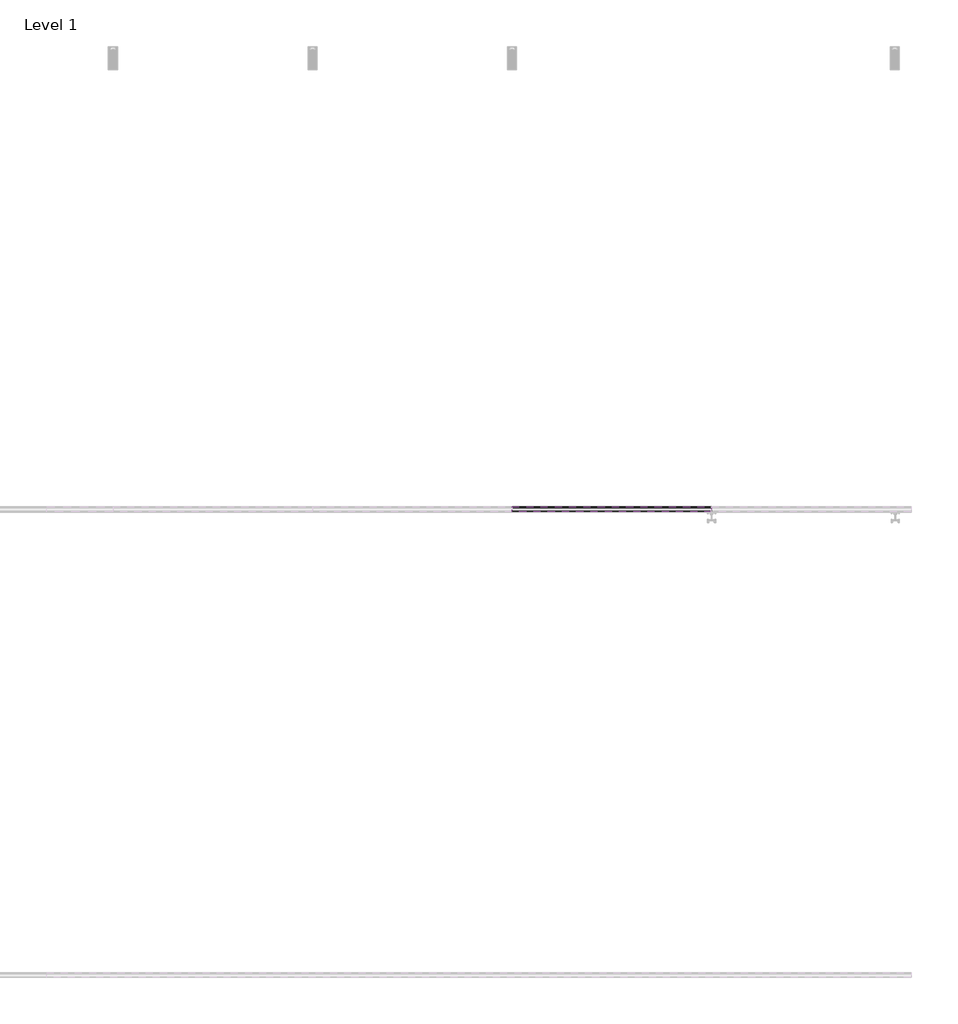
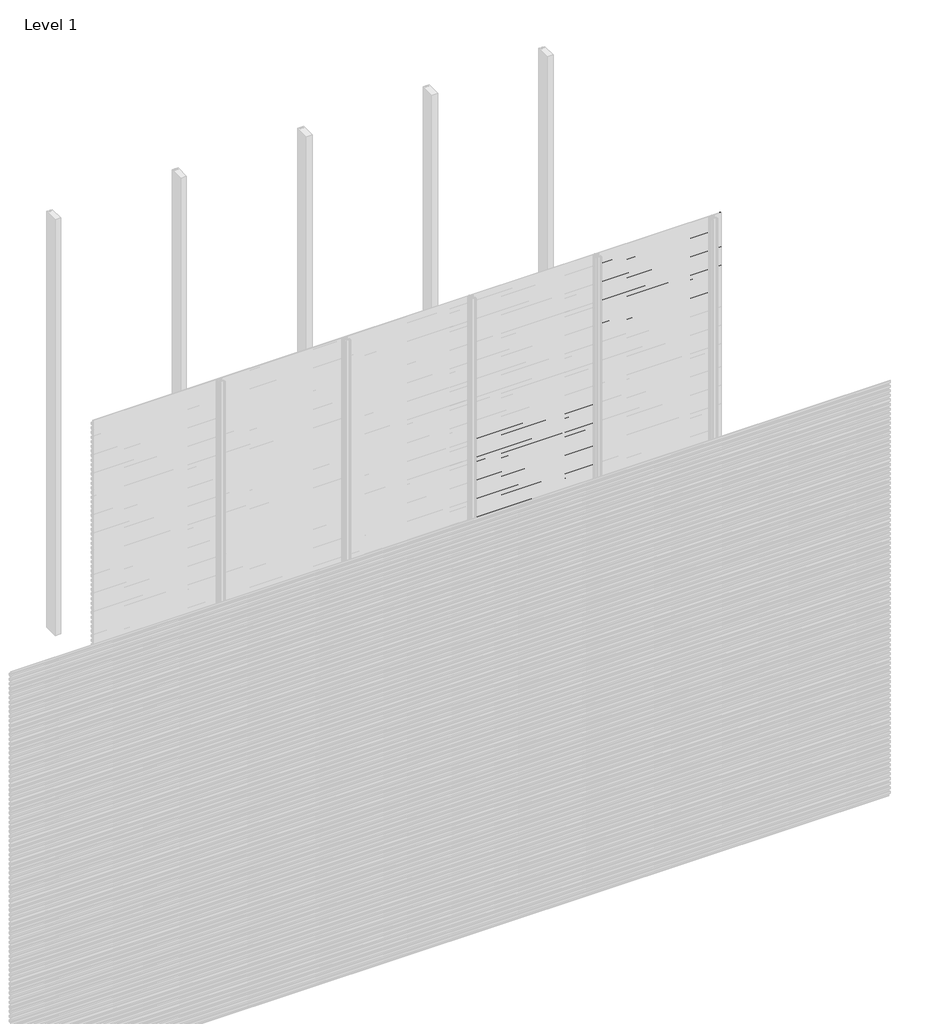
# One storey, part 30 of 96: 77 proxies.
"""IFC4 building model written with IfcOpenShell, lengths in millimetres."""

from ifc_helpers import new_model, si_unit, frame, origin, place, context, project, spatial, polyline, outline, extrude, element, save

model = new_model("IFC4")

# Units and contexts
model_context = context("Model", 3, world=origin())
ifc_project = project(units=[si_unit("LENGTHUNIT", "METRE", prefix="MILLI")], contexts=[model_context])

# Site, building, storey
site = spatial("IfcSite", under=ifc_project)
building = spatial("IfcBuilding", under=site)
storey = spatial("IfcBuildingStorey", under=building, Name="Level 1", Elevation=0.0)

# Proxies
placement = place(None, origin())
element("IfcBuildingElementProxy", 1, Name="Wall Sweeps", at=placement, inside=storey, context=model_context, shape_type="SweptSolid", body=[
    extrude(outline(polyline([(-41977.6, 1972.7655033), (-41977.6, 1958.4779188), (-41982.4114965, 1955.7), (-41982.4114965, 1956.9701706), (-41978.85, 1959.0264016), (-41978.85, 1972.0437382), (-41998.0, 1983.1000799), (-41998.0, 1998.0), (-41996.75, 1998.0), (-41996.75, 1983.8217609), (-41977.6, 1972.7655033)])), frame((4285.7142857, 0.0, 0.0), z_axis=(1.0, 0.0, 0.0), x_axis=(0.0, 1.0, 0.0)), (0.0, 0.0, 1.0), 857.1428571),
])
element("IfcBuildingElementProxy", 2, Name="Wall Sweeps", at=placement, inside=storey, context=model_context, shape_type="SweptSolid", body=[
    extrude(outline(polyline([(-41977.6, 1939.4655033), (-41977.6, 1925.1779188), (-41982.4114965, 1922.4), (-41982.4114965, 1923.6701706), (-41978.85, 1925.7264016), (-41978.85, 1938.7437382), (-41998.0, 1949.8000799), (-41998.0, 1964.7), (-41996.75, 1964.7), (-41996.75, 1950.5217609), (-41977.6, 1939.4655033)])), frame((4285.7142857, 0.0, 0.0), z_axis=(1.0, 0.0, 0.0), x_axis=(0.0, 1.0, 0.0)), (0.0, 0.0, 1.0), 857.1428571),
])
element("IfcBuildingElementProxy", 3, Name="Wall Sweeps", at=placement, inside=storey, context=model_context, shape_type="SweptSolid", body=[
    extrude(outline(polyline([(-41977.6, 1906.1655033), (-41977.6, 1891.8779188), (-41982.4114965, 1889.1), (-41982.4114965, 1890.3701706), (-41978.85, 1892.4264016), (-41978.85, 1905.4437382), (-41998.0, 1916.5000799), (-41998.0, 1931.4), (-41996.75, 1931.4), (-41996.75, 1917.2217609), (-41977.6, 1906.1655033)])), frame((4285.7142857, 0.0, 0.0), z_axis=(1.0, 0.0, 0.0), x_axis=(0.0, 1.0, 0.0)), (0.0, 0.0, 1.0), 857.1428571),
])
element("IfcBuildingElementProxy", 4, Name="Wall Sweeps", at=placement, inside=storey, context=model_context, shape_type="SweptSolid", body=[
    extrude(outline(polyline([(-41977.6, 1872.8655033), (-41977.6, 1858.5779188), (-41982.4114965, 1855.8), (-41982.4114965, 1857.0701706), (-41978.85, 1859.1264016), (-41978.85, 1872.1437382), (-41998.0, 1883.2000799), (-41998.0, 1898.1), (-41996.75, 1898.1), (-41996.75, 1883.9217609), (-41977.6, 1872.8655033)])), frame((4285.7142857, 0.0, 0.0), z_axis=(1.0, 0.0, 0.0), x_axis=(0.0, 1.0, 0.0)), (0.0, 0.0, 1.0), 857.1428571),
])
element("IfcBuildingElementProxy", 5, Name="Wall Sweeps", at=placement, inside=storey, context=model_context, shape_type="SweptSolid", body=[
    extrude(outline(polyline([(-41977.6, 1839.5655033), (-41977.6, 1825.2779188), (-41982.4114965, 1822.5), (-41982.4114965, 1823.7701706), (-41978.85, 1825.8264016), (-41978.85, 1838.8437382), (-41998.0, 1849.9000799), (-41998.0, 1864.8), (-41996.75, 1864.8), (-41996.75, 1850.6217609), (-41977.6, 1839.5655033)])), frame((4285.7142857, 0.0, 0.0), z_axis=(1.0, 0.0, 0.0), x_axis=(0.0, 1.0, 0.0)), (0.0, 0.0, 1.0), 857.1428571),
])
element("IfcBuildingElementProxy", 6, Name="Wall Sweeps", at=placement, inside=storey, context=model_context, shape_type="SweptSolid", body=[
    extrude(outline(polyline([(-41977.6, 1806.2655033), (-41977.6, 1791.9779188), (-41982.4114965, 1789.2), (-41982.4114965, 1790.4701706), (-41978.85, 1792.5264016), (-41978.85, 1805.5437382), (-41998.0, 1816.6000799), (-41998.0, 1831.5), (-41996.75, 1831.5), (-41996.75, 1817.3217609), (-41977.6, 1806.2655033)])), frame((4285.7142857, 0.0, 0.0), z_axis=(1.0, 0.0, 0.0), x_axis=(0.0, 1.0, 0.0)), (0.0, 0.0, 1.0), 857.1428571),
])
element("IfcBuildingElementProxy", 7, Name="Wall Sweeps", at=placement, inside=storey, context=model_context, shape_type="SweptSolid", body=[
    extrude(outline(polyline([(-41977.6, 1772.9655033), (-41977.6, 1758.6779188), (-41982.4114965, 1755.9), (-41982.4114965, 1757.1701706), (-41978.85, 1759.2264016), (-41978.85, 1772.2437382), (-41998.0, 1783.3000799), (-41998.0, 1798.2), (-41996.75, 1798.2), (-41996.75, 1784.0217609), (-41977.6, 1772.9655033)])), frame((4285.7142857, 0.0, 0.0), z_axis=(1.0, 0.0, 0.0), x_axis=(0.0, 1.0, 0.0)), (0.0, 0.0, 1.0), 857.1428571),
])
element("IfcBuildingElementProxy", 8, Name="Wall Sweeps", at=placement, inside=storey, context=model_context, shape_type="SweptSolid", body=[
    extrude(outline(polyline([(-41977.6, 1739.6655033), (-41977.6, 1725.3779188), (-41982.4114965, 1722.6), (-41982.4114965, 1723.8701706), (-41978.85, 1725.9264016), (-41978.85, 1738.9437382), (-41998.0, 1750.0000799), (-41998.0, 1764.9), (-41996.75, 1764.9), (-41996.75, 1750.7217609), (-41977.6, 1739.6655033)])), frame((4285.7142857, 0.0, 0.0), z_axis=(1.0, 0.0, 0.0), x_axis=(0.0, 1.0, 0.0)), (0.0, 0.0, 1.0), 857.1428571),
])
element("IfcBuildingElementProxy", 9, Name="Wall Sweeps", at=placement, inside=storey, context=model_context, shape_type="SweptSolid", body=[
    extrude(outline(polyline([(-41977.6, 1706.3655033), (-41977.6, 1692.0779188), (-41982.4114965, 1689.3), (-41982.4114965, 1690.5701706), (-41978.85, 1692.6264016), (-41978.85, 1705.6437382), (-41998.0, 1716.7000799), (-41998.0, 1731.6), (-41996.75, 1731.6), (-41996.75, 1717.4217609), (-41977.6, 1706.3655033)])), frame((4285.7142857, 0.0, 0.0), z_axis=(1.0, 0.0, 0.0), x_axis=(0.0, 1.0, 0.0)), (0.0, 0.0, 1.0), 857.1428571),
])
element("IfcBuildingElementProxy", 10, Name="Wall Sweeps", at=placement, inside=storey, context=model_context, shape_type="SweptSolid", body=[
    extrude(outline(polyline([(-41977.6, 1673.0655033), (-41977.6, 1658.7779188), (-41982.4114965, 1656.0), (-41982.4114965, 1657.2701706), (-41978.85, 1659.3264016), (-41978.85, 1672.3437382), (-41998.0, 1683.4000799), (-41998.0, 1698.3), (-41996.75, 1698.3), (-41996.75, 1684.1217609), (-41977.6, 1673.0655033)])), frame((4285.7142857, 0.0, 0.0), z_axis=(1.0, 0.0, 0.0), x_axis=(0.0, 1.0, 0.0)), (0.0, 0.0, 1.0), 857.1428571),
])
element("IfcBuildingElementProxy", 11, Name="Wall Sweeps", at=placement, inside=storey, context=model_context, shape_type="SweptSolid", body=[
    extrude(outline(polyline([(-41977.6, 1639.7655033), (-41977.6, 1625.4779188), (-41982.4114965, 1622.7), (-41982.4114965, 1623.9701706), (-41978.85, 1626.0264016), (-41978.85, 1639.0437382), (-41998.0, 1650.1000799), (-41998.0, 1665.0), (-41996.75, 1665.0), (-41996.75, 1650.8217609), (-41977.6, 1639.7655033)])), frame((4285.7142857, 0.0, 0.0), z_axis=(1.0, 0.0, 0.0), x_axis=(0.0, 1.0, 0.0)), (0.0, 0.0, 1.0), 857.1428571),
])
element("IfcBuildingElementProxy", 12, Name="Wall Sweeps", at=placement, inside=storey, context=model_context, shape_type="SweptSolid", body=[
    extrude(outline(polyline([(-41977.6, 1606.4655033), (-41977.6, 1592.1779188), (-41982.4114965, 1589.4), (-41982.4114965, 1590.6701706), (-41978.85, 1592.7264016), (-41978.85, 1605.7437382), (-41998.0, 1616.8000799), (-41998.0, 1631.7), (-41996.75, 1631.7), (-41996.75, 1617.5217609), (-41977.6, 1606.4655033)])), frame((4285.7142857, 0.0, 0.0), z_axis=(1.0, 0.0, 0.0), x_axis=(0.0, 1.0, 0.0)), (0.0, 0.0, 1.0), 857.1428571),
])
element("IfcBuildingElementProxy", 13, Name="Wall Sweeps", at=placement, inside=storey, context=model_context, shape_type="SweptSolid", body=[
    extrude(outline(polyline([(-41977.6, 1573.1655033), (-41977.6, 1558.8779188), (-41982.4114965, 1556.1), (-41982.4114965, 1557.3701706), (-41978.85, 1559.4264016), (-41978.85, 1572.4437382), (-41998.0, 1583.5000799), (-41998.0, 1598.4), (-41996.75, 1598.4), (-41996.75, 1584.2217609), (-41977.6, 1573.1655033)])), frame((4285.7142857, 0.0, 0.0), z_axis=(1.0, 0.0, 0.0), x_axis=(0.0, 1.0, 0.0)), (0.0, 0.0, 1.0), 857.1428571),
])
element("IfcBuildingElementProxy", 14, Name="Wall Sweeps", at=placement, inside=storey, context=model_context, shape_type="SweptSolid", body=[
    extrude(outline(polyline([(-41977.6, 1539.8655033), (-41977.6, 1525.5779188), (-41982.4114965, 1522.8), (-41982.4114965, 1524.0701706), (-41978.85, 1526.1264016), (-41978.85, 1539.1437382), (-41998.0, 1550.2000799), (-41998.0, 1565.1), (-41996.75, 1565.1), (-41996.75, 1550.9217609), (-41977.6, 1539.8655033)])), frame((4285.7142857, 0.0, 0.0), z_axis=(1.0, 0.0, 0.0), x_axis=(0.0, 1.0, 0.0)), (0.0, 0.0, 1.0), 857.1428571),
])
element("IfcBuildingElementProxy", 15, Name="Wall Sweeps", at=placement, inside=storey, context=model_context, shape_type="SweptSolid", body=[
    extrude(outline(polyline([(-41977.6, 1506.5655033), (-41977.6, 1492.2779188), (-41982.4114965, 1489.5), (-41982.4114965, 1490.7701706), (-41978.85, 1492.8264016), (-41978.85, 1505.8437382), (-41998.0, 1516.9000799), (-41998.0, 1531.8), (-41996.75, 1531.8), (-41996.75, 1517.6217609), (-41977.6, 1506.5655033)])), frame((4285.7142857, 0.0, 0.0), z_axis=(1.0, 0.0, 0.0), x_axis=(0.0, 1.0, 0.0)), (0.0, 0.0, 1.0), 857.1428571),
])
element("IfcBuildingElementProxy", 16, Name="Wall Sweeps", at=placement, inside=storey, context=model_context, shape_type="SweptSolid", body=[
    extrude(outline(polyline([(-41977.6, 1473.2655033), (-41977.6, 1458.9779188), (-41982.4114965, 1456.2), (-41982.4114965, 1457.4701706), (-41978.85, 1459.5264016), (-41978.85, 1472.5437382), (-41998.0, 1483.6000799), (-41998.0, 1498.5), (-41996.75, 1498.5), (-41996.75, 1484.3217609), (-41977.6, 1473.2655033)])), frame((4285.7142857, 0.0, 0.0), z_axis=(1.0, 0.0, 0.0), x_axis=(0.0, 1.0, 0.0)), (0.0, 0.0, 1.0), 857.1428571),
])
element("IfcBuildingElementProxy", 17, Name="Wall Sweeps", at=placement, inside=storey, context=model_context, shape_type="SweptSolid", body=[
    extrude(outline(polyline([(-41977.6, 1439.9655033), (-41977.6, 1425.6779188), (-41982.4114965, 1422.9), (-41982.4114965, 1424.1701706), (-41978.85, 1426.2264016), (-41978.85, 1439.2437382), (-41998.0, 1450.3000799), (-41998.0, 1465.2), (-41996.75, 1465.2), (-41996.75, 1451.0217609), (-41977.6, 1439.9655033)])), frame((4285.7142857, 0.0, 0.0), z_axis=(1.0, 0.0, 0.0), x_axis=(0.0, 1.0, 0.0)), (0.0, 0.0, 1.0), 857.1428571),
])
element("IfcBuildingElementProxy", 18, Name="Wall Sweeps", at=placement, inside=storey, context=model_context, shape_type="SweptSolid", body=[
    extrude(outline(polyline([(-41977.6, 1406.6655033), (-41977.6, 1392.3779188), (-41982.4114965, 1389.6), (-41982.4114965, 1390.8701706), (-41978.85, 1392.9264016), (-41978.85, 1405.9437382), (-41998.0, 1417.0000799), (-41998.0, 1431.9), (-41996.75, 1431.9), (-41996.75, 1417.7217609), (-41977.6, 1406.6655033)])), frame((4285.7142857, 0.0, 0.0), z_axis=(1.0, 0.0, 0.0), x_axis=(0.0, 1.0, 0.0)), (0.0, 0.0, 1.0), 857.1428571),
])
element("IfcBuildingElementProxy", 19, Name="Wall Sweeps", at=placement, inside=storey, context=model_context, shape_type="SweptSolid", body=[
    extrude(outline(polyline([(-41977.6, 1373.3655033), (-41977.6, 1359.0779188), (-41982.4114965, 1356.3), (-41982.4114965, 1357.5701706), (-41978.85, 1359.6264016), (-41978.85, 1372.6437382), (-41998.0, 1383.7000799), (-41998.0, 1398.6), (-41996.75, 1398.6), (-41996.75, 1384.4217609), (-41977.6, 1373.3655033)])), frame((4285.7142857, 0.0, 0.0), z_axis=(1.0, 0.0, 0.0), x_axis=(0.0, 1.0, 0.0)), (0.0, 0.0, 1.0), 857.1428571),
])
element("IfcBuildingElementProxy", 20, Name="Wall Sweeps", at=placement, inside=storey, context=model_context, shape_type="SweptSolid", body=[
    extrude(outline(polyline([(-41977.6, 1340.0655033), (-41977.6, 1325.7779188), (-41982.4114965, 1323.0), (-41982.4114965, 1324.2701706), (-41978.85, 1326.3264016), (-41978.85, 1339.3437382), (-41998.0, 1350.4000799), (-41998.0, 1365.3), (-41996.75, 1365.3), (-41996.75, 1351.1217609), (-41977.6, 1340.0655033)])), frame((4285.7142857, 0.0, 0.0), z_axis=(1.0, 0.0, 0.0), x_axis=(0.0, 1.0, 0.0)), (0.0, 0.0, 1.0), 857.1428571),
])
element("IfcBuildingElementProxy", 21, Name="Wall Sweeps", at=placement, inside=storey, context=model_context, shape_type="SweptSolid", body=[
    extrude(outline(polyline([(-41977.6, 1306.7655033), (-41977.6, 1292.4779188), (-41982.4114965, 1289.7), (-41982.4114965, 1290.9701706), (-41978.85, 1293.0264016), (-41978.85, 1306.0437382), (-41998.0, 1317.1000799), (-41998.0, 1332.0), (-41996.75, 1332.0), (-41996.75, 1317.8217609), (-41977.6, 1306.7655033)])), frame((4285.7142857, 0.0, 0.0), z_axis=(1.0, 0.0, 0.0), x_axis=(0.0, 1.0, 0.0)), (0.0, 0.0, 1.0), 857.1428571),
])
element("IfcBuildingElementProxy", 22, Name="Wall Sweeps", at=placement, inside=storey, context=model_context, shape_type="SweptSolid", body=[
    extrude(outline(polyline([(-41977.6, 1273.4655033), (-41977.6, 1259.1779188), (-41982.4114965, 1256.4), (-41982.4114965, 1257.6701706), (-41978.85, 1259.7264016), (-41978.85, 1272.7437382), (-41998.0, 1283.8000799), (-41998.0, 1298.7), (-41996.75, 1298.7), (-41996.75, 1284.5217609), (-41977.6, 1273.4655033)])), frame((4285.7142857, 0.0, 0.0), z_axis=(1.0, 0.0, 0.0), x_axis=(0.0, 1.0, 0.0)), (0.0, 0.0, 1.0), 857.1428571),
])
element("IfcBuildingElementProxy", 23, Name="Wall Sweeps", at=placement, inside=storey, context=model_context, shape_type="SweptSolid", body=[
    extrude(outline(polyline([(-41977.6, 1240.1655033), (-41977.6, 1225.8779188), (-41982.4114965, 1223.1), (-41982.4114965, 1224.3701706), (-41978.85, 1226.4264016), (-41978.85, 1239.4437382), (-41998.0, 1250.5000799), (-41998.0, 1265.4), (-41996.75, 1265.4), (-41996.75, 1251.2217609), (-41977.6, 1240.1655033)])), frame((4285.7142857, 0.0, 0.0), z_axis=(1.0, 0.0, 0.0), x_axis=(0.0, 1.0, 0.0)), (0.0, 0.0, 1.0), 857.1428571),
])
element("IfcBuildingElementProxy", 24, Name="Wall Sweeps", at=placement, inside=storey, context=model_context, shape_type="SweptSolid", body=[
    extrude(outline(polyline([(-41977.6, 1206.8655033), (-41977.6, 1192.5779188), (-41982.4114965, 1189.8), (-41982.4114965, 1191.0701706), (-41978.85, 1193.1264016), (-41978.85, 1206.1437382), (-41998.0, 1217.2000799), (-41998.0, 1232.1), (-41996.75, 1232.1), (-41996.75, 1217.9217609), (-41977.6, 1206.8655033)])), frame((4285.7142857, 0.0, 0.0), z_axis=(1.0, 0.0, 0.0), x_axis=(0.0, 1.0, 0.0)), (0.0, 0.0, 1.0), 857.1428571),
])
element("IfcBuildingElementProxy", 25, Name="Wall Sweeps", at=placement, inside=storey, context=model_context, shape_type="SweptSolid", body=[
    extrude(outline(polyline([(-41977.6, 1173.5655033), (-41977.6, 1159.2779188), (-41982.4114965, 1156.5), (-41982.4114965, 1157.7701706), (-41978.85, 1159.8264016), (-41978.85, 1172.8437382), (-41998.0, 1183.9000799), (-41998.0, 1198.8), (-41996.75, 1198.8), (-41996.75, 1184.6217609), (-41977.6, 1173.5655033)])), frame((4285.7142857, 0.0, 0.0), z_axis=(1.0, 0.0, 0.0), x_axis=(0.0, 1.0, 0.0)), (0.0, 0.0, 1.0), 857.1428571),
])
element("IfcBuildingElementProxy", 26, Name="Wall Sweeps", at=placement, inside=storey, context=model_context, shape_type="SweptSolid", body=[
    extrude(outline(polyline([(-41977.6, 1140.2655033), (-41977.6, 1125.9779188), (-41982.4114965, 1123.2), (-41982.4114965, 1124.4701706), (-41978.85, 1126.5264016), (-41978.85, 1139.5437382), (-41998.0, 1150.6000799), (-41998.0, 1165.5), (-41996.75, 1165.5), (-41996.75, 1151.3217609), (-41977.6, 1140.2655033)])), frame((4285.7142857, 0.0, 0.0), z_axis=(1.0, 0.0, 0.0), x_axis=(0.0, 1.0, 0.0)), (0.0, 0.0, 1.0), 857.1428571),
])
element("IfcBuildingElementProxy", 27, Name="Wall Sweeps", at=placement, inside=storey, context=model_context, shape_type="SweptSolid", body=[
    extrude(outline(polyline([(-41977.6, 1106.9655033), (-41977.6, 1092.6779188), (-41982.4114965, 1089.9), (-41982.4114965, 1091.1701706), (-41978.85, 1093.2264016), (-41978.85, 1106.2437382), (-41998.0, 1117.3000799), (-41998.0, 1132.2), (-41996.75, 1132.2), (-41996.75, 1118.0217609), (-41977.6, 1106.9655033)])), frame((4285.7142857, 0.0, 0.0), z_axis=(1.0, 0.0, 0.0), x_axis=(0.0, 1.0, 0.0)), (0.0, 0.0, 1.0), 857.1428571),
])
element("IfcBuildingElementProxy", 28, Name="Wall Sweeps", at=placement, inside=storey, context=model_context, shape_type="SweptSolid", body=[
    extrude(outline(polyline([(-41977.6, 1073.6655033), (-41977.6, 1059.3779188), (-41982.4114965, 1056.6), (-41982.4114965, 1057.8701706), (-41978.85, 1059.9264016), (-41978.85, 1072.9437382), (-41998.0, 1084.0000799), (-41998.0, 1098.9), (-41996.75, 1098.9), (-41996.75, 1084.7217609), (-41977.6, 1073.6655033)])), frame((4285.7142857, 0.0, 0.0), z_axis=(1.0, 0.0, 0.0), x_axis=(0.0, 1.0, 0.0)), (0.0, 0.0, 1.0), 857.1428571),
])
element("IfcBuildingElementProxy", 29, Name="Wall Sweeps", at=placement, inside=storey, context=model_context, shape_type="SweptSolid", body=[
    extrude(outline(polyline([(-41977.6, 1040.3655033), (-41977.6, 1026.0779188), (-41982.4114965, 1023.3), (-41982.4114965, 1024.5701706), (-41978.85, 1026.6264016), (-41978.85, 1039.6437382), (-41998.0, 1050.7000799), (-41998.0, 1065.6), (-41996.75, 1065.6), (-41996.75, 1051.4217609), (-41977.6, 1040.3655033)])), frame((4285.7142857, 0.0, 0.0), z_axis=(1.0, 0.0, 0.0), x_axis=(0.0, 1.0, 0.0)), (0.0, 0.0, 1.0), 857.1428571),
])
element("IfcBuildingElementProxy", 30, Name="Wall Sweeps", at=placement, inside=storey, context=model_context, shape_type="SweptSolid", body=[
    extrude(outline(polyline([(-41977.6, 1007.0655033), (-41977.6, 992.7779188), (-41982.4114965, 990.0), (-41982.4114965, 991.2701706), (-41978.85, 993.3264016), (-41978.85, 1006.3437382), (-41998.0, 1017.4000799), (-41998.0, 1032.3), (-41996.75, 1032.3), (-41996.75, 1018.1217609), (-41977.6, 1007.0655033)])), frame((4285.7142857, 0.0, 0.0), z_axis=(1.0, 0.0, 0.0), x_axis=(0.0, 1.0, 0.0)), (0.0, 0.0, 1.0), 857.1428571),
])
element("IfcBuildingElementProxy", 31, Name="Wall Sweeps", at=placement, inside=storey, context=model_context, shape_type="SweptSolid", body=[
    extrude(outline(polyline([(-41977.6, 973.7655033), (-41977.6, 959.4779188), (-41982.4114965, 956.7), (-41982.4114965, 957.9701706), (-41978.85, 960.0264016), (-41978.85, 973.0437382), (-41998.0, 984.1000799), (-41998.0, 999.0), (-41996.75, 999.0), (-41996.75, 984.8217609), (-41977.6, 973.7655033)])), frame((4285.7142857, 0.0, 0.0), z_axis=(1.0, 0.0, 0.0), x_axis=(0.0, 1.0, 0.0)), (0.0, 0.0, 1.0), 857.1428571),
])
element("IfcBuildingElementProxy", 32, Name="Wall Sweeps", at=placement, inside=storey, context=model_context, shape_type="SweptSolid", body=[
    extrude(outline(polyline([(-41977.6, 940.4655033), (-41977.6, 926.1779188), (-41982.4114965, 923.4), (-41982.4114965, 924.6701706), (-41978.85, 926.7264016), (-41978.85, 939.7437382), (-41998.0, 950.8000799), (-41998.0, 965.7), (-41996.75, 965.7), (-41996.75, 951.5217609), (-41977.6, 940.4655033)])), frame((4285.7142857, 0.0, 0.0), z_axis=(1.0, 0.0, 0.0), x_axis=(0.0, 1.0, 0.0)), (0.0, 0.0, 1.0), 857.1428571),
])
element("IfcBuildingElementProxy", 33, Name="Wall Sweeps", at=placement, inside=storey, context=model_context, shape_type="SweptSolid", body=[
    extrude(outline(polyline([(-41977.6, 907.1655033), (-41977.6, 892.8779188), (-41982.4114965, 890.1), (-41982.4114965, 891.3701706), (-41978.85, 893.4264016), (-41978.85, 906.4437382), (-41998.0, 917.5000799), (-41998.0, 932.4), (-41996.75, 932.4), (-41996.75, 918.2217609), (-41977.6, 907.1655033)])), frame((4285.7142857, 0.0, 0.0), z_axis=(1.0, 0.0, 0.0), x_axis=(0.0, 1.0, 0.0)), (0.0, 0.0, 1.0), 857.1428571),
])
element("IfcBuildingElementProxy", 34, Name="Wall Sweeps", at=placement, inside=storey, context=model_context, shape_type="SweptSolid", body=[
    extrude(outline(polyline([(-41977.6, 873.8655033), (-41977.6, 859.5779188), (-41982.4114965, 856.8), (-41982.4114965, 858.0701706), (-41978.85, 860.1264016), (-41978.85, 873.1437382), (-41998.0, 884.2000799), (-41998.0, 899.1), (-41996.75, 899.1), (-41996.75, 884.9217609), (-41977.6, 873.8655033)])), frame((4285.7142857, 0.0, 0.0), z_axis=(1.0, 0.0, 0.0), x_axis=(0.0, 1.0, 0.0)), (0.0, 0.0, 1.0), 857.1428571),
])
element("IfcBuildingElementProxy", 35, Name="Wall Sweeps", at=placement, inside=storey, context=model_context, shape_type="SweptSolid", body=[
    extrude(outline(polyline([(-41977.6, 840.5655033), (-41977.6, 826.2779188), (-41982.4114965, 823.5), (-41982.4114965, 824.7701706), (-41978.85, 826.8264016), (-41978.85, 839.8437382), (-41998.0, 850.9000799), (-41998.0, 865.8), (-41996.75, 865.8), (-41996.75, 851.6217609), (-41977.6, 840.5655033)])), frame((4285.7142857, 0.0, 0.0), z_axis=(1.0, 0.0, 0.0), x_axis=(0.0, 1.0, 0.0)), (0.0, 0.0, 1.0), 857.1428571),
])
element("IfcBuildingElementProxy", 36, Name="Wall Sweeps", at=placement, inside=storey, context=model_context, shape_type="SweptSolid", body=[
    extrude(outline(polyline([(-41977.6, 807.2655033), (-41977.6, 792.9779188), (-41982.4114965, 790.2), (-41982.4114965, 791.4701706), (-41978.85, 793.5264016), (-41978.85, 806.5437382), (-41998.0, 817.6000799), (-41998.0, 832.5), (-41996.75, 832.5), (-41996.75, 818.3217609), (-41977.6, 807.2655033)])), frame((4285.7142857, 0.0, 0.0), z_axis=(1.0, 0.0, 0.0), x_axis=(0.0, 1.0, 0.0)), (0.0, 0.0, 1.0), 857.1428571),
])
element("IfcBuildingElementProxy", 37, Name="Wall Sweeps", at=placement, inside=storey, context=model_context, shape_type="SweptSolid", body=[
    extrude(outline(polyline([(-41977.6, 773.9655033), (-41977.6, 759.6779188), (-41982.4114965, 756.9), (-41982.4114965, 758.1701706), (-41978.85, 760.2264016), (-41978.85, 773.2437382), (-41998.0, 784.3000799), (-41998.0, 799.2), (-41996.75, 799.2), (-41996.75, 785.0217609), (-41977.6, 773.9655033)])), frame((4285.7142857, 0.0, 0.0), z_axis=(1.0, 0.0, 0.0), x_axis=(0.0, 1.0, 0.0)), (0.0, 0.0, 1.0), 857.1428571),
])
element("IfcBuildingElementProxy", 38, Name="Wall Sweeps", at=placement, inside=storey, context=model_context, shape_type="SweptSolid", body=[
    extrude(outline(polyline([(-41977.6, 740.6655033), (-41977.6, 726.3779188), (-41982.4114965, 723.6), (-41982.4114965, 724.8701706), (-41978.85, 726.9264016), (-41978.85, 739.9437382), (-41998.0, 751.0000799), (-41998.0, 765.9), (-41996.75, 765.9), (-41996.75, 751.7217609), (-41977.6, 740.6655033)])), frame((4285.7142857, 0.0, 0.0), z_axis=(1.0, 0.0, 0.0), x_axis=(0.0, 1.0, 0.0)), (0.0, 0.0, 1.0), 857.1428571),
])
element("IfcBuildingElementProxy", 39, Name="Wall Sweeps", at=placement, inside=storey, context=model_context, shape_type="SweptSolid", body=[
    extrude(outline(polyline([(-41977.6, 707.3655033), (-41977.6, 693.0779188), (-41982.4114965, 690.3), (-41982.4114965, 691.5701706), (-41978.85, 693.6264016), (-41978.85, 706.6437382), (-41998.0, 717.7000799), (-41998.0, 732.6), (-41996.75, 732.6), (-41996.75, 718.4217609), (-41977.6, 707.3655033)])), frame((4285.7142857, 0.0, 0.0), z_axis=(1.0, 0.0, 0.0), x_axis=(0.0, 1.0, 0.0)), (0.0, 0.0, 1.0), 857.1428571),
])
element("IfcBuildingElementProxy", 40, Name="Wall Sweeps", at=placement, inside=storey, context=model_context, shape_type="SweptSolid", body=[
    extrude(outline(polyline([(-41977.6, 674.0655033), (-41977.6, 659.7779188), (-41982.4114965, 657.0), (-41982.4114965, 658.2701706), (-41978.85, 660.3264016), (-41978.85, 673.3437382), (-41998.0, 684.4000799), (-41998.0, 699.3), (-41996.75, 699.3), (-41996.75, 685.1217609), (-41977.6, 674.0655033)])), frame((4285.7142857, 0.0, 0.0), z_axis=(1.0, 0.0, 0.0), x_axis=(0.0, 1.0, 0.0)), (0.0, 0.0, 1.0), 857.1428571),
])
element("IfcBuildingElementProxy", 41, Name="Wall Sweeps", at=placement, inside=storey, context=model_context, shape_type="SweptSolid", body=[
    extrude(outline(polyline([(-41977.6, 640.7655033), (-41977.6, 626.4779188), (-41982.4114965, 623.7), (-41982.4114965, 624.9701706), (-41978.85, 627.0264016), (-41978.85, 640.0437382), (-41998.0, 651.1000799), (-41998.0, 666.0), (-41996.75, 666.0), (-41996.75, 651.8217609), (-41977.6, 640.7655033)])), frame((4285.7142857, 0.0, 0.0), z_axis=(1.0, 0.0, 0.0), x_axis=(0.0, 1.0, 0.0)), (0.0, 0.0, 1.0), 857.1428571),
])
element("IfcBuildingElementProxy", 42, Name="Wall Sweeps", at=placement, inside=storey, context=model_context, shape_type="SweptSolid", body=[
    extrude(outline(polyline([(-41977.6, 607.4655033), (-41977.6, 593.1779188), (-41982.4114965, 590.4), (-41982.4114965, 591.6701706), (-41978.85, 593.7264016), (-41978.85, 606.7437382), (-41998.0, 617.8000799), (-41998.0, 632.7), (-41996.75, 632.7), (-41996.75, 618.5217609), (-41977.6, 607.4655033)])), frame((4285.7142857, 0.0, 0.0), z_axis=(1.0, 0.0, 0.0), x_axis=(0.0, 1.0, 0.0)), (0.0, 0.0, 1.0), 857.1428571),
])
element("IfcBuildingElementProxy", 43, Name="Wall Sweeps", at=placement, inside=storey, context=model_context, shape_type="SweptSolid", body=[
    extrude(outline(polyline([(-41977.6, 574.1655033), (-41977.6, 559.8779188), (-41982.4114965, 557.1), (-41982.4114965, 558.3701706), (-41978.85, 560.4264016), (-41978.85, 573.4437382), (-41998.0, 584.5000799), (-41998.0, 599.4), (-41996.75, 599.4), (-41996.75, 585.2217609), (-41977.6, 574.1655033)])), frame((4285.7142857, 0.0, 0.0), z_axis=(1.0, 0.0, 0.0), x_axis=(0.0, 1.0, 0.0)), (0.0, 0.0, 1.0), 857.1428571),
])
element("IfcBuildingElementProxy", 44, Name="Wall Sweeps", at=placement, inside=storey, context=model_context, shape_type="SweptSolid", body=[
    extrude(outline(polyline([(-41977.6, 540.8655033), (-41977.6, 526.5779188), (-41982.4114965, 523.8), (-41982.4114965, 525.0701706), (-41978.85, 527.1264016), (-41978.85, 540.1437382), (-41998.0, 551.2000799), (-41998.0, 566.1), (-41996.75, 566.1), (-41996.75, 551.9217609), (-41977.6, 540.8655033)])), frame((4285.7142857, 0.0, 0.0), z_axis=(1.0, 0.0, 0.0), x_axis=(0.0, 1.0, 0.0)), (0.0, 0.0, 1.0), 857.1428571),
])
element("IfcBuildingElementProxy", 45, Name="Wall Sweeps", at=placement, inside=storey, context=model_context, shape_type="SweptSolid", body=[
    extrude(outline(polyline([(-41977.6, 507.5655033), (-41977.6, 493.2779188), (-41982.4114965, 490.5), (-41982.4114965, 491.7701706), (-41978.85, 493.8264016), (-41978.85, 506.8437382), (-41998.0, 517.9000799), (-41998.0, 532.8), (-41996.75, 532.8), (-41996.75, 518.6217609), (-41977.6, 507.5655033)])), frame((4285.7142857, 0.0, 0.0), z_axis=(1.0, 0.0, 0.0), x_axis=(0.0, 1.0, 0.0)), (0.0, 0.0, 1.0), 857.1428571),
])
element("IfcBuildingElementProxy", 46, Name="Wall Sweeps", at=placement, inside=storey, context=model_context, shape_type="SweptSolid", body=[
    extrude(outline(polyline([(-41977.6, 474.2655033), (-41977.6, 459.9779188), (-41982.4114965, 457.2), (-41982.4114965, 458.4701706), (-41978.85, 460.5264016), (-41978.85, 473.5437382), (-41998.0, 484.6000799), (-41998.0, 499.5), (-41996.75, 499.5), (-41996.75, 485.3217609), (-41977.6, 474.2655033)])), frame((4285.7142857, 0.0, 0.0), z_axis=(1.0, 0.0, 0.0), x_axis=(0.0, 1.0, 0.0)), (0.0, 0.0, 1.0), 857.1428571),
])
element("IfcBuildingElementProxy", 47, Name="Wall Sweeps", at=placement, inside=storey, context=model_context, shape_type="SweptSolid", body=[
    extrude(outline(polyline([(-41977.6, 440.9655033), (-41977.6, 426.6779188), (-41982.4114965, 423.9), (-41982.4114965, 425.1701706), (-41978.85, 427.2264016), (-41978.85, 440.2437382), (-41998.0, 451.3000799), (-41998.0, 466.2), (-41996.75, 466.2), (-41996.75, 452.0217609), (-41977.6, 440.9655033)])), frame((4285.7142857, 0.0, 0.0), z_axis=(1.0, 0.0, 0.0), x_axis=(0.0, 1.0, 0.0)), (0.0, 0.0, 1.0), 857.1428571),
])
element("IfcBuildingElementProxy", 48, Name="Wall Sweeps", at=placement, inside=storey, context=model_context, shape_type="SweptSolid", body=[
    extrude(outline(polyline([(-41977.6, 407.6655033), (-41977.6, 393.3779188), (-41982.4114965, 390.6), (-41982.4114965, 391.8701706), (-41978.85, 393.9264016), (-41978.85, 406.9437382), (-41998.0, 418.0000799), (-41998.0, 432.9), (-41996.75, 432.9), (-41996.75, 418.7217609), (-41977.6, 407.6655033)])), frame((4285.7142857, 0.0, 0.0), z_axis=(1.0, 0.0, 0.0), x_axis=(0.0, 1.0, 0.0)), (0.0, 0.0, 1.0), 857.1428571),
])
element("IfcBuildingElementProxy", 49, Name="Wall Sweeps", at=placement, inside=storey, context=model_context, shape_type="SweptSolid", body=[
    extrude(outline(polyline([(-41977.6, 374.3655033), (-41977.6, 360.0779188), (-41982.4114965, 357.3), (-41982.4114965, 358.5701706), (-41978.85, 360.6264016), (-41978.85, 373.6437382), (-41998.0, 384.7000799), (-41998.0, 399.6), (-41996.75, 399.6), (-41996.75, 385.4217609), (-41977.6, 374.3655033)])), frame((4285.7142857, 0.0, 0.0), z_axis=(1.0, 0.0, 0.0), x_axis=(0.0, 1.0, 0.0)), (0.0, 0.0, 1.0), 857.1428571),
])
element("IfcBuildingElementProxy", 50, Name="Wall Sweeps", at=placement, inside=storey, context=model_context, shape_type="SweptSolid", body=[
    extrude(outline(polyline([(-41977.6, 341.0655033), (-41977.6, 326.7779188), (-41982.4114965, 324.0), (-41982.4114965, 325.2701706), (-41978.85, 327.3264016), (-41978.85, 340.3437382), (-41998.0, 351.4000799), (-41998.0, 366.3), (-41996.75, 366.3), (-41996.75, 352.1217609), (-41977.6, 341.0655033)])), frame((4285.7142857, 0.0, 0.0), z_axis=(1.0, 0.0, 0.0), x_axis=(0.0, 1.0, 0.0)), (0.0, 0.0, 1.0), 857.1428571),
])
element("IfcBuildingElementProxy", 51, Name="Wall Sweeps", at=placement, inside=storey, context=model_context, shape_type="SweptSolid", body=[
    extrude(outline(polyline([(-41977.6, 307.7655033), (-41977.6, 293.4779188), (-41982.4114965, 290.7), (-41982.4114965, 291.9701706), (-41978.85, 294.0264016), (-41978.85, 307.0437382), (-41998.0, 318.1000799), (-41998.0, 333.0), (-41996.75, 333.0), (-41996.75, 318.8217609), (-41977.6, 307.7655033)])), frame((4285.7142857, 0.0, 0.0), z_axis=(1.0, 0.0, 0.0), x_axis=(0.0, 1.0, 0.0)), (0.0, 0.0, 1.0), 857.1428571),
])
element("IfcBuildingElementProxy", 52, Name="Wall Sweeps", at=placement, inside=storey, context=model_context, shape_type="SweptSolid", body=[
    extrude(outline(polyline([(-41977.6, 274.4655033), (-41977.6, 260.1779188), (-41982.4114965, 257.4), (-41982.4114965, 258.6701706), (-41978.85, 260.7264016), (-41978.85, 273.7437382), (-41998.0, 284.8000799), (-41998.0, 299.7), (-41996.75, 299.7), (-41996.75, 285.5217609), (-41977.6, 274.4655033)])), frame((4285.7142857, 0.0, 0.0), z_axis=(1.0, 0.0, 0.0), x_axis=(0.0, 1.0, 0.0)), (0.0, 0.0, 1.0), 857.1428571),
])
element("IfcBuildingElementProxy", 53, Name="Wall Sweeps", at=placement, inside=storey, context=model_context, shape_type="SweptSolid", body=[
    extrude(outline(polyline([(-41977.6, 241.1655033), (-41977.6, 226.8779188), (-41982.4114965, 224.1), (-41982.4114965, 225.3701706), (-41978.85, 227.4264016), (-41978.85, 240.4437382), (-41998.0, 251.5000799), (-41998.0, 266.4), (-41996.75, 266.4), (-41996.75, 252.2217609), (-41977.6, 241.1655033)])), frame((4285.7142857, 0.0, 0.0), z_axis=(1.0, 0.0, 0.0), x_axis=(0.0, 1.0, 0.0)), (0.0, 0.0, 1.0), 857.1428571),
])
element("IfcBuildingElementProxy", 54, Name="Wall Sweeps", at=placement, inside=storey, context=model_context, shape_type="SweptSolid", body=[
    extrude(outline(polyline([(-41977.6, 207.8655033), (-41977.6, 193.5779188), (-41982.4114965, 190.8), (-41982.4114965, 192.0701706), (-41978.85, 194.1264016), (-41978.85, 207.1437382), (-41998.0, 218.2000799), (-41998.0, 233.1), (-41996.75, 233.1), (-41996.75, 218.9217609), (-41977.6, 207.8655033)])), frame((4285.7142857, 0.0, 0.0), z_axis=(1.0, 0.0, 0.0), x_axis=(0.0, 1.0, 0.0)), (0.0, 0.0, 1.0), 857.1428571),
])
element("IfcBuildingElementProxy", 55, Name="Wall Sweeps", at=placement, inside=storey, context=model_context, shape_type="SweptSolid", body=[
    extrude(outline(polyline([(-41977.6, 174.5655033), (-41977.6, 160.2779188), (-41982.4114965, 157.5), (-41982.4114965, 158.7701706), (-41978.85, 160.8264016), (-41978.85, 173.8437382), (-41998.0, 184.9000799), (-41998.0, 199.8), (-41996.75, 199.8), (-41996.75, 185.6217609), (-41977.6, 174.5655033)])), frame((4285.7142857, 0.0, 0.0), z_axis=(1.0, 0.0, 0.0), x_axis=(0.0, 1.0, 0.0)), (0.0, 0.0, 1.0), 857.1428571),
])
element("IfcBuildingElementProxy", 56, Name="Wall Sweeps", at=placement, inside=storey, context=model_context, shape_type="SweptSolid", body=[
    extrude(outline(polyline([(-41977.6, 141.2655033), (-41977.6, 126.9779188), (-41982.4114965, 124.2), (-41982.4114965, 125.4701706), (-41978.85, 127.5264016), (-41978.85, 140.5437382), (-41998.0, 151.6000799), (-41998.0, 166.5), (-41996.75, 166.5), (-41996.75, 152.3217609), (-41977.6, 141.2655033)])), frame((4285.7142857, 0.0, 0.0), z_axis=(1.0, 0.0, 0.0), x_axis=(0.0, 1.0, 0.0)), (0.0, 0.0, 1.0), 857.1428571),
])
element("IfcBuildingElementProxy", 57, Name="Wall Sweeps", at=placement, inside=storey, context=model_context, shape_type="SweptSolid", body=[
    extrude(outline(polyline([(-41977.6, 107.9655033), (-41977.6, 93.6779188), (-41982.4114965, 90.9), (-41982.4114965, 92.1701706), (-41978.85, 94.2264016), (-41978.85, 107.2437382), (-41998.0, 118.3000799), (-41998.0, 133.2), (-41996.75, 133.2), (-41996.75, 119.0217609), (-41977.6, 107.9655033)])), frame((4285.7142857, 0.0, 0.0), z_axis=(1.0, 0.0, 0.0), x_axis=(0.0, 1.0, 0.0)), (0.0, 0.0, 1.0), 857.1428571),
])
element("IfcBuildingElementProxy", 58, Name="Wall Sweeps", at=placement, inside=storey, context=model_context, shape_type="SweptSolid", body=[
    extrude(outline(polyline([(-41977.6, 74.6655033), (-41977.6, 60.3779188), (-41982.4114965, 57.6), (-41982.4114965, 58.8701706), (-41978.85, 60.9264016), (-41978.85, 73.9437382), (-41998.0, 85.0000799), (-41998.0, 99.9), (-41996.75, 99.9), (-41996.75, 85.7217609), (-41977.6, 74.6655033)])), frame((4285.7142857, 0.0, 0.0), z_axis=(1.0, 0.0, 0.0), x_axis=(0.0, 1.0, 0.0)), (0.0, 0.0, 1.0), 857.1428571),
])
element("IfcBuildingElementProxy", 59, Name="Wall Sweeps", at=placement, inside=storey, context=model_context, shape_type="SweptSolid", body=[
    extrude(outline(polyline([(-41977.6, 41.3655033), (-41977.6, 27.0779188), (-41982.4114965, 24.3), (-41982.4114965, 25.5701706), (-41978.85, 27.6264016), (-41978.85, 40.6437382), (-41998.0, 51.7000799), (-41998.0, 66.6), (-41996.75, 66.6), (-41996.75, 52.4217609), (-41977.6, 41.3655033)])), frame((4285.7142857, 0.0, 0.0), z_axis=(1.0, 0.0, 0.0), x_axis=(0.0, 1.0, 0.0)), (0.0, 0.0, 1.0), 857.1428571),
])
element("IfcBuildingElementProxy", 60, Name="Wall Sweeps", at=placement, inside=storey, context=model_context, shape_type="SweptSolid", body=[
    extrude(outline(polyline([(-41977.6, 8.0655033), (-41977.6, -6.2220812), (-41982.4114965, -9.0), (-41982.4114965, -7.7298294), (-41978.85, -5.6735984), (-41978.85, 7.3437382), (-41998.0, 18.4000799), (-41998.0, 33.3), (-41996.75, 33.3), (-41996.75, 19.1217609), (-41977.6, 8.0655033)])), frame((4285.7142857, 0.0, 0.0), z_axis=(1.0, 0.0, 0.0), x_axis=(0.0, 1.0, 0.0)), (0.0, 0.0, 1.0), 857.1428571),
])
element("IfcBuildingElementProxy", 61, Name="Wall Sweeps", at=placement, inside=storey, context=model_context, shape_type="SweptSolid", body=[
    extrude(outline(polyline([(-41977.6, 2971.7655033), (-41977.6, 2957.4779188), (-41982.4114965, 2954.7), (-41982.4114965, 2955.9701706), (-41978.85, 2958.0264016), (-41978.85, 2971.0437382), (-41998.0, 2982.1000799), (-41998.0, 2997.0), (-41996.75, 2997.0), (-41996.75, 2982.8217609), (-41977.6, 2971.7655033)])), frame((5142.8571429, 0.0, 0.0), z_axis=(1.0, 0.0, 0.0), x_axis=(0.0, 1.0, 0.0)), (0.0, 0.0, 1.0), 857.1428571),
])
element("IfcBuildingElementProxy", 62, Name="Wall Sweeps", at=placement, inside=storey, context=model_context, shape_type="SweptSolid", body=[
    extrude(outline(polyline([(-41977.6, 2938.4655033), (-41977.6, 2924.1779188), (-41982.4114965, 2921.4), (-41982.4114965, 2922.6701706), (-41978.85, 2924.7264016), (-41978.85, 2937.7437382), (-41998.0, 2948.8000799), (-41998.0, 2963.7), (-41996.75, 2963.7), (-41996.75, 2949.5217609), (-41977.6, 2938.4655033)])), frame((5142.8571429, 0.0, 0.0), z_axis=(1.0, 0.0, 0.0), x_axis=(0.0, 1.0, 0.0)), (0.0, 0.0, 1.0), 857.1428571),
])
element("IfcBuildingElementProxy", 63, Name="Wall Sweeps", at=placement, inside=storey, context=model_context, shape_type="SweptSolid", body=[
    extrude(outline(polyline([(-41977.6, 2905.1655033), (-41977.6, 2890.8779188), (-41982.4114965, 2888.1), (-41982.4114965, 2889.3701706), (-41978.85, 2891.4264016), (-41978.85, 2904.4437382), (-41998.0, 2915.5000799), (-41998.0, 2930.4), (-41996.75, 2930.4), (-41996.75, 2916.2217609), (-41977.6, 2905.1655033)])), frame((5142.8571429, 0.0, 0.0), z_axis=(1.0, 0.0, 0.0), x_axis=(0.0, 1.0, 0.0)), (0.0, 0.0, 1.0), 857.1428571),
])
element("IfcBuildingElementProxy", 64, Name="Wall Sweeps", at=placement, inside=storey, context=model_context, shape_type="SweptSolid", body=[
    extrude(outline(polyline([(-41977.6, 2871.8655033), (-41977.6, 2857.5779188), (-41982.4114965, 2854.8), (-41982.4114965, 2856.0701706), (-41978.85, 2858.1264016), (-41978.85, 2871.1437382), (-41998.0, 2882.2000799), (-41998.0, 2897.1), (-41996.75, 2897.1), (-41996.75, 2882.9217609), (-41977.6, 2871.8655033)])), frame((5142.8571429, 0.0, 0.0), z_axis=(1.0, 0.0, 0.0), x_axis=(0.0, 1.0, 0.0)), (0.0, 0.0, 1.0), 857.1428571),
])
element("IfcBuildingElementProxy", 65, Name="Wall Sweeps", at=placement, inside=storey, context=model_context, shape_type="SweptSolid", body=[
    extrude(outline(polyline([(-41977.6, 2838.5655033), (-41977.6, 2824.2779188), (-41982.4114965, 2821.5), (-41982.4114965, 2822.7701706), (-41978.85, 2824.8264016), (-41978.85, 2837.8437382), (-41998.0, 2848.9000799), (-41998.0, 2863.8), (-41996.75, 2863.8), (-41996.75, 2849.6217609), (-41977.6, 2838.5655033)])), frame((5142.8571429, 0.0, 0.0), z_axis=(1.0, 0.0, 0.0), x_axis=(0.0, 1.0, 0.0)), (0.0, 0.0, 1.0), 857.1428571),
])
element("IfcBuildingElementProxy", 66, Name="Wall Sweeps", at=placement, inside=storey, context=model_context, shape_type="SweptSolid", body=[
    extrude(outline(polyline([(-41977.6, 2805.2655033), (-41977.6, 2790.9779188), (-41982.4114965, 2788.2), (-41982.4114965, 2789.4701706), (-41978.85, 2791.5264016), (-41978.85, 2804.5437382), (-41998.0, 2815.6000799), (-41998.0, 2830.5), (-41996.75, 2830.5), (-41996.75, 2816.3217609), (-41977.6, 2805.2655033)])), frame((5142.8571429, 0.0, 0.0), z_axis=(1.0, 0.0, 0.0), x_axis=(0.0, 1.0, 0.0)), (0.0, 0.0, 1.0), 857.1428571),
])
element("IfcBuildingElementProxy", 67, Name="Wall Sweeps", at=placement, inside=storey, context=model_context, shape_type="SweptSolid", body=[
    extrude(outline(polyline([(-41977.6, 2771.9655033), (-41977.6, 2757.6779188), (-41982.4114965, 2754.9), (-41982.4114965, 2756.1701706), (-41978.85, 2758.2264016), (-41978.85, 2771.2437382), (-41998.0, 2782.3000799), (-41998.0, 2797.2), (-41996.75, 2797.2), (-41996.75, 2783.0217609), (-41977.6, 2771.9655033)])), frame((5142.8571429, 0.0, 0.0), z_axis=(1.0, 0.0, 0.0), x_axis=(0.0, 1.0, 0.0)), (0.0, 0.0, 1.0), 857.1428571),
])
element("IfcBuildingElementProxy", 68, Name="Wall Sweeps", at=placement, inside=storey, context=model_context, shape_type="SweptSolid", body=[
    extrude(outline(polyline([(-41977.6, 2738.6655033), (-41977.6, 2724.3779188), (-41982.4114965, 2721.6), (-41982.4114965, 2722.8701706), (-41978.85, 2724.9264016), (-41978.85, 2737.9437382), (-41998.0, 2749.0000799), (-41998.0, 2763.9), (-41996.75, 2763.9), (-41996.75, 2749.7217609), (-41977.6, 2738.6655033)])), frame((5142.8571429, 0.0, 0.0), z_axis=(1.0, 0.0, 0.0), x_axis=(0.0, 1.0, 0.0)), (0.0, 0.0, 1.0), 857.1428571),
])
element("IfcBuildingElementProxy", 69, Name="Wall Sweeps", at=placement, inside=storey, context=model_context, shape_type="SweptSolid", body=[
    extrude(outline(polyline([(-41977.6, 2705.3655033), (-41977.6, 2691.0779188), (-41982.4114965, 2688.3), (-41982.4114965, 2689.5701706), (-41978.85, 2691.6264016), (-41978.85, 2704.6437382), (-41998.0, 2715.7000799), (-41998.0, 2730.6), (-41996.75, 2730.6), (-41996.75, 2716.4217609), (-41977.6, 2705.3655033)])), frame((5142.8571429, 0.0, 0.0), z_axis=(1.0, 0.0, 0.0), x_axis=(0.0, 1.0, 0.0)), (0.0, 0.0, 1.0), 857.1428571),
])
element("IfcBuildingElementProxy", 70, Name="Wall Sweeps", at=placement, inside=storey, context=model_context, shape_type="SweptSolid", body=[
    extrude(outline(polyline([(-41977.6, 2672.0655033), (-41977.6, 2657.7779188), (-41982.4114965, 2655.0), (-41982.4114965, 2656.2701706), (-41978.85, 2658.3264016), (-41978.85, 2671.3437382), (-41998.0, 2682.4000799), (-41998.0, 2697.3), (-41996.75, 2697.3), (-41996.75, 2683.1217609), (-41977.6, 2672.0655033)])), frame((5142.8571429, 0.0, 0.0), z_axis=(1.0, 0.0, 0.0), x_axis=(0.0, 1.0, 0.0)), (0.0, 0.0, 1.0), 857.1428571),
])
element("IfcBuildingElementProxy", 71, Name="Wall Sweeps", at=placement, inside=storey, context=model_context, shape_type="SweptSolid", body=[
    extrude(outline(polyline([(-41977.6, 2638.7655033), (-41977.6, 2624.4779188), (-41982.4114965, 2621.7), (-41982.4114965, 2622.9701706), (-41978.85, 2625.0264016), (-41978.85, 2638.0437382), (-41998.0, 2649.1000799), (-41998.0, 2664.0), (-41996.75, 2664.0), (-41996.75, 2649.8217609), (-41977.6, 2638.7655033)])), frame((5142.8571429, 0.0, 0.0), z_axis=(1.0, 0.0, 0.0), x_axis=(0.0, 1.0, 0.0)), (0.0, 0.0, 1.0), 857.1428571),
])
element("IfcBuildingElementProxy", 72, Name="Wall Sweeps", at=placement, inside=storey, context=model_context, shape_type="SweptSolid", body=[
    extrude(outline(polyline([(-41977.6, 2605.4655033), (-41977.6, 2591.1779188), (-41982.4114965, 2588.4), (-41982.4114965, 2589.6701706), (-41978.85, 2591.7264016), (-41978.85, 2604.7437382), (-41998.0, 2615.8000799), (-41998.0, 2630.7), (-41996.75, 2630.7), (-41996.75, 2616.5217609), (-41977.6, 2605.4655033)])), frame((5142.8571429, 0.0, 0.0), z_axis=(1.0, 0.0, 0.0), x_axis=(0.0, 1.0, 0.0)), (0.0, 0.0, 1.0), 857.1428571),
])
element("IfcBuildingElementProxy", 73, Name="Wall Sweeps", at=placement, inside=storey, context=model_context, shape_type="SweptSolid", body=[
    extrude(outline(polyline([(-41977.6, 2572.1655033), (-41977.6, 2557.8779188), (-41982.4114965, 2555.1), (-41982.4114965, 2556.3701706), (-41978.85, 2558.4264016), (-41978.85, 2571.4437382), (-41998.0, 2582.5000799), (-41998.0, 2597.4), (-41996.75, 2597.4), (-41996.75, 2583.2217609), (-41977.6, 2572.1655033)])), frame((5142.8571429, 0.0, 0.0), z_axis=(1.0, 0.0, 0.0), x_axis=(0.0, 1.0, 0.0)), (0.0, 0.0, 1.0), 857.1428571),
])
element("IfcBuildingElementProxy", 74, Name="Wall Sweeps", at=placement, inside=storey, context=model_context, shape_type="SweptSolid", body=[
    extrude(outline(polyline([(-41977.6, 2538.8655033), (-41977.6, 2524.5779188), (-41982.4114965, 2521.8), (-41982.4114965, 2523.0701706), (-41978.85, 2525.1264016), (-41978.85, 2538.1437382), (-41998.0, 2549.2000799), (-41998.0, 2564.1), (-41996.75, 2564.1), (-41996.75, 2549.9217609), (-41977.6, 2538.8655033)])), frame((5142.8571429, 0.0, 0.0), z_axis=(1.0, 0.0, 0.0), x_axis=(0.0, 1.0, 0.0)), (0.0, 0.0, 1.0), 857.1428571),
])
element("IfcBuildingElementProxy", 75, Name="Wall Sweeps", at=placement, inside=storey, context=model_context, shape_type="SweptSolid", body=[
    extrude(outline(polyline([(-41977.6, 2505.5655033), (-41977.6, 2491.2779188), (-41982.4114965, 2488.5), (-41982.4114965, 2489.7701706), (-41978.85, 2491.8264016), (-41978.85, 2504.8437382), (-41998.0, 2515.9000799), (-41998.0, 2530.8), (-41996.75, 2530.8), (-41996.75, 2516.6217609), (-41977.6, 2505.5655033)])), frame((5142.8571429, 0.0, 0.0), z_axis=(1.0, 0.0, 0.0), x_axis=(0.0, 1.0, 0.0)), (0.0, 0.0, 1.0), 857.1428571),
])
element("IfcBuildingElementProxy", 76, Name="Wall Sweeps", at=placement, inside=storey, context=model_context, shape_type="SweptSolid", body=[
    extrude(outline(polyline([(-41977.6, 2472.2655033), (-41977.6, 2457.9779188), (-41982.4114965, 2455.2), (-41982.4114965, 2456.4701706), (-41978.85, 2458.5264016), (-41978.85, 2471.5437382), (-41998.0, 2482.6000799), (-41998.0, 2497.5), (-41996.75, 2497.5), (-41996.75, 2483.3217609), (-41977.6, 2472.2655033)])), frame((5142.8571429, 0.0, 0.0), z_axis=(1.0, 0.0, 0.0), x_axis=(0.0, 1.0, 0.0)), (0.0, 0.0, 1.0), 857.1428571),
])
element("IfcBuildingElementProxy", 77, Name="Wall Sweeps", at=placement, inside=storey, context=model_context, shape_type="SweptSolid", body=[
    extrude(outline(polyline([(-41977.6, 2438.9655033), (-41977.6, 2424.6779188), (-41982.4114965, 2421.9), (-41982.4114965, 2423.1701706), (-41978.85, 2425.2264016), (-41978.85, 2438.2437382), (-41998.0, 2449.3000799), (-41998.0, 2464.2), (-41996.75, 2464.2), (-41996.75, 2450.0217609), (-41977.6, 2438.9655033)])), frame((5142.8571429, 0.0, 0.0), z_axis=(1.0, 0.0, 0.0), x_axis=(0.0, 1.0, 0.0)), (0.0, 0.0, 1.0), 857.1428571),
])

save(model, "model.ifc")
